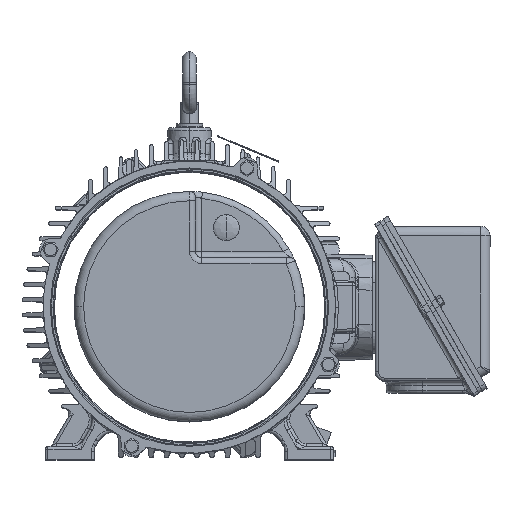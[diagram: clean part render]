
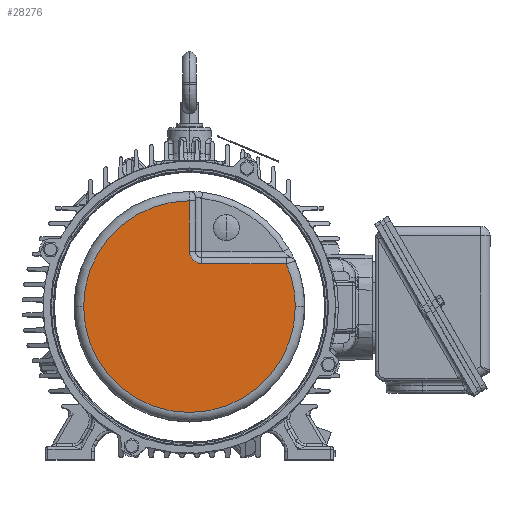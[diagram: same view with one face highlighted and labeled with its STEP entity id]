
A CAD part, top view. The second image highlights one B-rep face of the part: STEP entity #28276.
In plain terms, the highlighted planar face has unit normal (0, 0, 1).
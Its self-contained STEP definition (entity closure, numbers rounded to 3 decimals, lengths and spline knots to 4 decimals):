
#1206 = VERTEX_POINT ( 'NONE', #132520 ) ;
#4430 = AXIS2_PLACEMENT_3D ( 'NONE', #122774, #63366, #109139 ) ;
#6524 = ORIENTED_EDGE ( 'NONE', *, *, #15086, .T. ) ;
#14082 = CARTESIAN_POINT ( 'NONE',  ( -4.31, 0., 17.1855 ) ) ;
#15086 = EDGE_CURVE ( 'NONE', #188580, #56298, #112118, .T. ) ;
#16208 = DIRECTION ( 'NONE',  ( -1., 0., 0. ) ) ;
#28276 = ADVANCED_FACE ( 'NONE', ( #123230 ), #34621, .T. ) ;
#31399 = CIRCLE ( 'NONE', #81108, 0.5 ) ;
#34621 = PLANE ( 'NONE',  #181126 ) ;
#51517 = CARTESIAN_POINT ( 'NONE',  ( 0., 2.25, 17.1855 ) ) ;
#56298 = VERTEX_POINT ( 'NONE', #98137 ) ;
#58685 = ORIENTED_EDGE ( 'NONE', *, *, #187810, .F. ) ;
#63366 = DIRECTION ( 'NONE',  ( 0., 0., -1. ) ) ;
#64789 = DIRECTION ( 'NONE',  ( 1., 0., 0. ) ) ;
#66370 = EDGE_CURVE ( 'NONE', #67839, #1206, #189141, .T. ) ;
#67839 = VERTEX_POINT ( 'NONE', #14082 ) ;
#71361 = EDGE_LOOP ( 'NONE', ( #137906, #6524, #71978, #145632, #149012, #58685 ) ) ;
#71978 = ORIENTED_EDGE ( 'NONE', *, *, #123454, .F. ) ;
#77169 = DIRECTION ( 'NONE',  ( 0., 0., 1. ) ) ;
#79653 = CIRCLE ( 'NONE', #169805, 4.31 ) ;
#81108 = AXIS2_PLACEMENT_3D ( 'NONE', #102605, #77169, #136591 ) ;
#85049 = DIRECTION ( 'NONE',  ( 0., 0., -1. ) ) ;
#87928 = CARTESIAN_POINT ( 'NONE',  ( 0., 0., 17.1855 ) ) ;
#93045 = VERTEX_POINT ( 'NONE', #51517 ) ;
#98137 = CARTESIAN_POINT ( 'NONE',  ( 0.5, 1.75, 17.1855 ) ) ;
#102605 = CARTESIAN_POINT ( 'NONE',  ( 0.5, 2.25, 17.1855 ) ) ;
#107676 = DIRECTION ( 'NONE',  ( 0., 0., 1. ) ) ;
#109139 = DIRECTION ( 'NONE',  ( -1., 0., 0. ) ) ;
#112118 = LINE ( 'NONE', #125781, #172155 ) ;
#114553 = AXIS2_PLACEMENT_3D ( 'NONE', #137853, #179792, #16208 ) ;
#122253 = CARTESIAN_POINT ( 'NONE',  ( 0., 4.31, 17.1855 ) ) ;
#122774 = CARTESIAN_POINT ( 'NONE',  ( 0., 0., 17.1855 ) ) ;
#123230 = FACE_OUTER_BOUND ( 'NONE', #71361, .T. ) ;
#123454 = EDGE_CURVE ( 'NONE', #93045, #56298, #31399, .T. ) ;
#125781 = CARTESIAN_POINT ( 'NONE',  ( 0.25, 1.75, 17.1855 ) ) ;
#131163 = VERTEX_POINT ( 'NONE', #181802 ) ;
#132520 = CARTESIAN_POINT ( 'NONE',  ( 0., 4.31, 17.1855 ) ) ;
#136591 = DIRECTION ( 'NONE',  ( 1., 0., 0. ) ) ;
#136603 = VECTOR ( 'NONE', #159361, 39.3701 ) ;
#137853 = CARTESIAN_POINT ( 'NONE',  ( 0., 0., 17.1855 ) ) ;
#137906 = ORIENTED_EDGE ( 'NONE', *, *, #145389, .F. ) ;
#142832 = CARTESIAN_POINT ( 'NONE',  ( 0., 4.3027, 17.1855 ) ) ;
#145389 = EDGE_CURVE ( 'NONE', #188580, #131163, #156756, .T. ) ;
#145632 = ORIENTED_EDGE ( 'NONE', *, *, #191917, .T. ) ;
#149012 = ORIENTED_EDGE ( 'NONE', *, *, #66370, .F. ) ;
#155029 = DIRECTION ( 'NONE',  ( -1., 0., 0. ) ) ;
#156756 = CIRCLE ( 'NONE', #4430, 4.31 ) ;
#158628 = CARTESIAN_POINT ( 'NONE',  ( 3.9387, 1.75, 17.1855 ) ) ;
#159361 = DIRECTION ( 'NONE',  ( 0., 1., 0. ) ) ;
#169805 = AXIS2_PLACEMENT_3D ( 'NONE', #87928, #85049, #175658 ) ;
#172155 = VECTOR ( 'NONE', #155029, 39.3701 ) ;
#175658 = DIRECTION ( 'NONE',  ( -1., 0., 0. ) ) ;
#179792 = DIRECTION ( 'NONE',  ( 0., 0., -1. ) ) ;
#181126 = AXIS2_PLACEMENT_3D ( 'NONE', #122253, #107676, #64789 ) ;
#181802 = CARTESIAN_POINT ( 'NONE',  ( 4.31, 0., 17.1855 ) ) ;
#187810 = EDGE_CURVE ( 'NONE', #131163, #67839, #79653, .T. ) ;
#188580 = VERTEX_POINT ( 'NONE', #158628 ) ;
#189141 = CIRCLE ( 'NONE', #114553, 4.31 ) ;
#189577 = LINE ( 'NONE', #142832, #136603 ) ;
#191917 = EDGE_CURVE ( 'NONE', #93045, #1206, #189577, .T. ) ;
